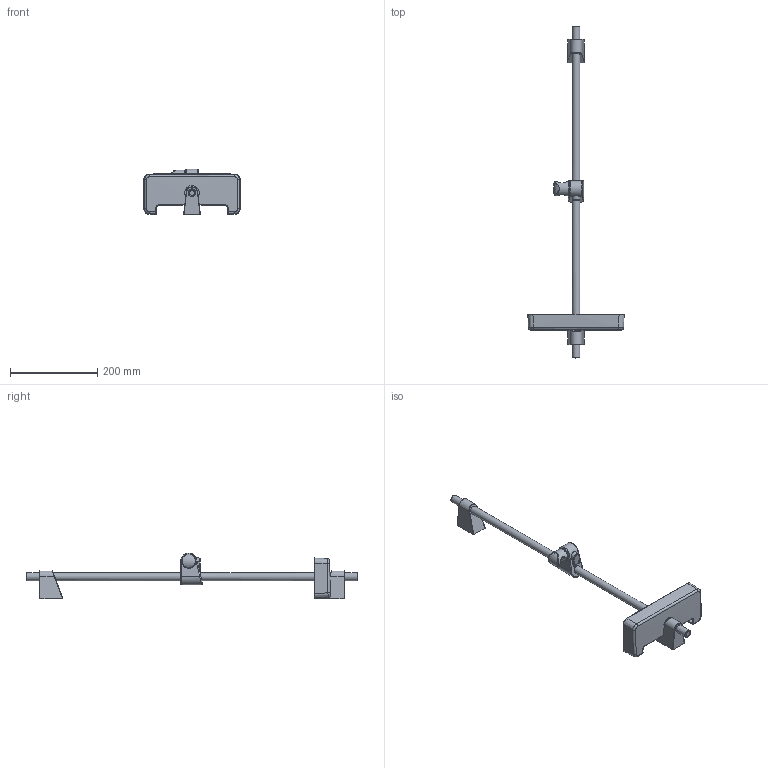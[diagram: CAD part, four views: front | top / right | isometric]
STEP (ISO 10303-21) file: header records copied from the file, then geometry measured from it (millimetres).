
FILE_DESCRIPTION (( 'STEP AP203' ), '1' );
FILE_NAME ('254600(2016)+44710300.STEP', '2017-03-09T05:47:24', ( '' ), ( '' ), 'SwSTEP 2.0', 'SolidWorks 2016', '' );
FILE_SCHEMA (( 'CONFIG_CONTROL_DESIGN' ));
Length unit declared in the file: millimetre
Products named in the file (1): 254600(2016)+44710300
Bounding box: 221.91 x 762.76 x 104.79 mm (x, y, z)
Volume: 552720 mm3; surface area: 139190.1 mm2
Topology: 2 solids, 2 shells, 238 faces, 565 edges, 340 vertices
Faces by surface type: bspline 143, cylinder 34, plane 34, torus 21, cone 4, sphere 2
Full cylindrical faces by diameter (mm): 17.8 x4
Entity records: 14122 total; most frequent: CARTESIAN_POINT 9885, ORIENTED_EDGE 1090, DIRECTION 546, EDGE_CURVE 545, VERTEX_POINT 331, B_SPLINE_CURVE_WITH_KNOTS 263, EDGE_LOOP 258, FACE_OUTER_BOUND 246
